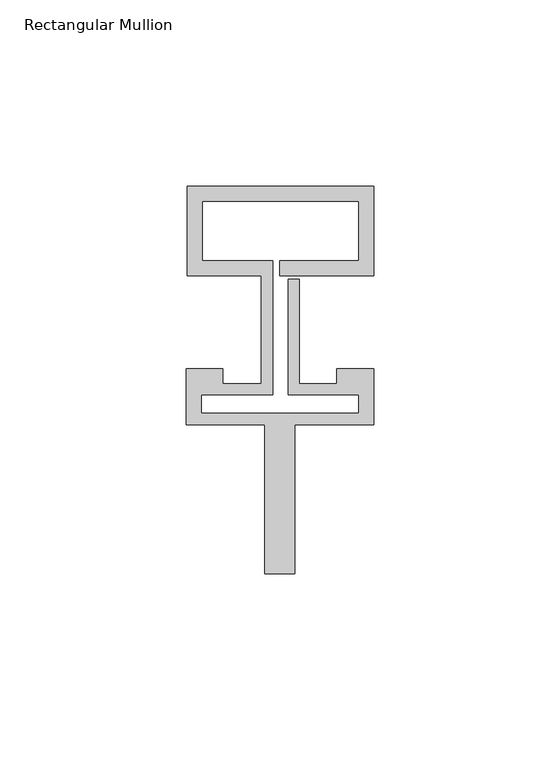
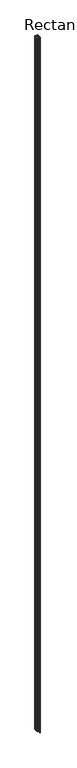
"""IFC4 building model written with IfcOpenShell, lengths in millimetres: member geometry, Rectangular Mullion : Reynaers_CW-50_Mullion-Transom_Horizontal_23.9mm_Facecap-06B."""

import ifcopenshell
import ifcopenshell.guid

model = None  # the IFC model being written
_history = None  # IfcOwnerHistory: only IFC2X3 demands one
_inside = {}  # id of a spatial element -> (the spatial element, [elements in it])
_under = {}  # id of a project, library or spatial element -> (it, [spatial elements below it])
_declared = {}  # id of a project -> (the project, [libraries it declares])
_typed = {}  # id of a type object -> (the type object, [elements of that type])
_made_of = {}  # id of a material, layer set ... -> (it, [elements and type objects made of it])


def new_model(schema):
    """Start an empty IFC model of exactly this schema.

    Asked for "IFC4X3", IfcOpenShell would pick the latest addendum, in which some entities
    have other attributes; the version numbers below select the first issue.
    IFC2X3 requires an IfcOwnerHistory on every rooted entity: one is made here for all.
    """
    global model, _history
    if schema == "IFC4X3":
        model = ifcopenshell.file(schema_version=(4, 3, 0, 0))
    else:
        model = ifcopenshell.file(schema=schema)
    _inside.clear()
    _under.clear()
    _declared.clear()
    _typed.clear()
    _made_of.clear()
    _history = None
    if model.schema == "IFC2X3":
        org = make("IfcOrganization", Name="unknown")
        user = make(
            "IfcPersonAndOrganization",
            ThePerson=make("IfcPerson", FamilyName="unknown"),
            TheOrganization=org,
        )
        app = make(
            "IfcApplication",
            ApplicationDeveloper=org,
            Version="unknown",
            ApplicationFullName="unknown",
            ApplicationIdentifier="unknown",
        )
        _history = make(
            "IfcOwnerHistory",
            OwningUser=user,
            OwningApplication=app,
            ChangeAction="ADDED",
            CreationDate=0,
        )
    return model


def make(cls, **values):
    """One entity of the class cls with the attributes given. An attribute that is None is left unset."""
    return model.create_entity(
        cls, **{name: value for name, value in values.items() if value is not None}
    )


def rooted(cls, **values):
    """An entity with a GlobalId (a new one), such as an element, a storey or a relation."""
    return make(cls, GlobalId=ifcopenshell.guid.new(), OwnerHistory=_history, **values)


def si_unit(unit_type, name, prefix=None):
    """IfcSIUnit, for example si_unit("LENGTHUNIT", "METRE", prefix="MILLI")."""
    return make("IfcSIUnit", UnitType=unit_type, Prefix=prefix, Name=name)


def assignment(units):
    """IfcUnitAssignment: the units of a project."""
    return None if units is None else make("IfcUnitAssignment", Units=units)


def point(xyz):
    """IfcCartesianPoint."""
    return None if xyz is None else make("IfcCartesianPoint", Coordinates=xyz)


def direction(xyz):
    """IfcDirection."""
    return None if xyz is None else make("IfcDirection", DirectionRatios=xyz)


def frame(location, z_axis=None, x_axis=None):
    """IfcAxis2Placement3D, a coordinate frame: its origin and axes. An axis left out is left unset."""
    return make(
        "IfcAxis2Placement3D",
        Location=point(location),
        Axis=direction(z_axis),
        RefDirection=direction(x_axis),
    )


def origin():
    """The frame at (0, 0, 0) with its axes left unset."""
    return frame((0.0, 0.0, 0.0))


def place(relative_to, where):
    """IfcLocalPlacement: puts the frame where relative to a parent placement (None: the world)."""
    return make(
        "IfcLocalPlacement", PlacementRelTo=relative_to, RelativePlacement=where
    )


def context(
    kind, dimensions, precision=None, world=None, true_north=None, identifier=None
):
    """IfcGeometricRepresentationContext, for example the 3D "Model" context."""
    return make(
        "IfcGeometricRepresentationContext",
        ContextIdentifier=identifier,
        ContextType=kind,
        CoordinateSpaceDimension=dimensions,
        Precision=precision,
        WorldCoordinateSystem=world,
        TrueNorth=true_north,
    )


def project(units=None, contexts=None):
    """IfcProject with its units and contexts."""
    return rooted(
        "IfcProject",
        Name="project",
        RepresentationContexts=contexts,
        UnitsInContext=assignment(units),
    )


def spatial(cls, under=None, at=None, **own):
    """A site, building, storey or space (cls), placed at a placement, below another one or the project."""
    s = rooted(cls, ObjectPlacement=at, **own)
    if under is not None:
        _under.setdefault(under.id(), (under, []))[1].append(s)
    return s


def polyline(points):
    """IfcPolyline through the points."""
    return make("IfcPolyline", Points=[point(p) for p in points])


def outline(outer, holes=None, kind="AREA"):
    """IfcArbitraryClosedProfileDef: a profile drawn as a closed curve; with holes, ...WithVoids."""
    if holes is None:
        return make("IfcArbitraryClosedProfileDef", ProfileType=kind, OuterCurve=outer)
    return make(
        "IfcArbitraryProfileDefWithVoids",
        ProfileType=kind,
        OuterCurve=outer,
        InnerCurves=holes,
    )


def extrude(swept, where, along, depth):
    """IfcExtrudedAreaSolid: the profile swept, set in the frame where, extruded along a direction by depth."""
    return make(
        "IfcExtrudedAreaSolid",
        SweptArea=swept,
        Position=where,
        ExtrudedDirection=direction(along),
        Depth=depth,
    )


def shape(context_of_items, identifier, shape_type, items):
    """IfcShapeRepresentation: the items that make up one representation, for example the "Body"."""
    return make(
        "IfcShapeRepresentation",
        ContextOfItems=context_of_items,
        RepresentationIdentifier=identifier,
        RepresentationType=shape_type,
        Items=items,
    )


def source(mapping_origin, context_of_items, identifier, shape_type, items):
    """IfcRepresentationMap: a shape defined once, which mapped items show again and again."""
    return make(
        "IfcRepresentationMap",
        MappingOrigin=mapping_origin,
        MappedRepresentation=shape(context_of_items, identifier, shape_type, items),
    )


def transform(
    local_origin,
    x_axis=None,
    y_axis=None,
    z_axis=None,
    scale=None,
    scale2=None,
    scale3=None,
    uniform=True,
):
    """IfcCartesianTransformationOperator3D, or its non-uniform kind. x_axis, y_axis, z_axis: its Axis1, 2, 3."""
    if uniform:
        return make(
            "IfcCartesianTransformationOperator3D",
            Axis1=direction(x_axis),
            Axis2=direction(y_axis),
            LocalOrigin=point(local_origin),
            Scale=scale,
            Axis3=direction(z_axis),
        )
    return make(
        "IfcCartesianTransformationOperator3DnonUniform",
        Axis1=direction(x_axis),
        Axis2=direction(y_axis),
        LocalOrigin=point(local_origin),
        Scale=scale,
        Axis3=direction(z_axis),
        Scale2=scale2,
        Scale3=scale3,
    )


def mapped(mapping_source, mapping_target):
    """IfcMappedItem: shows the shape of a source again, moved by a transform."""
    return make(
        "IfcMappedItem", MappingSource=mapping_source, MappingTarget=mapping_target
    )


def made_of(thing, what):
    """Note that an element or type object is made of a material, layer set ...; save() writes the relation."""
    if what is not None:
        _made_of.setdefault(what.id(), (what, []))[1].append(thing)
    return thing


def element(
    cls,
    number,
    at=None,
    inside=None,
    cuts=None,
    type_object=None,
    material=None,
    context=None,
    identifier="Body",
    shape_type=None,
    held_by="IfcProductDefinitionShape",
    body=None,
    shapes=None,
    **own,
):
    """One element of the class cls, such as IfcWall. Its Tag is "e" and its number.

    at: its placement. inside: the storey or other place that contains it. cuts: it is an
    opening in that element (IfcRelVoidsElement). A single representation is given by context,
    identifier, shape_type and body (its items); several are given by shapes. held_by: the class
    of the entity that holds the representations. save() writes the other relations.
    """
    e = rooted(cls, Tag="e%d" % number, ObjectPlacement=at, **own)
    if body is not None:
        shapes = [shape(context, identifier, shape_type, body)]
    if shapes is not None:
        e.Representation = make(held_by, Representations=shapes)
    if inside is not None:
        _inside.setdefault(inside.id(), (inside, []))[1].append(e)
    if cuts is not None:
        rooted(
            "IfcRelVoidsElement", RelatingBuildingElement=cuts, RelatedOpeningElement=e
        )
    if type_object is not None:
        _typed.setdefault(type_object.id(), (type_object, []))[1].append(e)
    return made_of(e, material)


def aggregate(whole, parts):
    """IfcRelAggregates: a whole, such as a stair, and the parts it consists of."""
    return rooted("IfcRelAggregates", RelatingObject=whole, RelatedObjects=parts)


def save(model, path):
    """Write the relations noted so far, then the file.

    IfcRelAggregates (storeys below a building ...), IfcRelContainedInSpatialStructure (elements
    in a storey), IfcRelDefinesByType, IfcRelAssociatesMaterial and IfcRelDeclares: one each for
    every whole, place, type object, material and project.
    """
    for whole, parts in _under.values():
        aggregate(whole, parts)
    for where, things in _inside.values():
        rooted(
            "IfcRelContainedInSpatialStructure",
            RelatedElements=things,
            RelatingStructure=where,
        )
    for kind, things in _typed.values():
        rooted("IfcRelDefinesByType", RelatedObjects=things, RelatingType=kind)
    for what, things in _made_of.values():
        rooted("IfcRelAssociatesMaterial", RelatedObjects=things, RelatingMaterial=what)
    for by, libraries in _declared.values():
        rooted("IfcRelDeclares", RelatingContext=by, RelatedDefinitions=libraries)
    model.write(path)


def rectangular_mullion_764dd3d6(model_context):
    return source(origin(), model_context, "Body", "SweptSolid", [
        extrude(outline(polyline([(-24.8004059, 36.4), (25.1995941, 36.4), (25.1995941, 12.5), (0.0, 12.5), (0.0, 16.5), (21.1995941, 16.5), (21.1995941, 32.4), (-20.8004059, 32.4), (-20.8004059, 16.5), (-1.9004059, 16.5), (-1.9004059, -19.5), (-20.994845, -19.5), (-20.994845, -24.4191338), (21.1995941, -24.4191338), (21.1995941, -19.5), (2.2995941, -19.5), (2.2995941, 11.5), (5.2995941, 11.5), (5.2995941, -16.5), (15.2996495, -16.5), (15.2996495, -12.5), (25.1995941, -12.5), (25.1995941, -27.5), (4.004855, -27.5), (4.004855, -67.5), (-3.995145, -67.5), (-3.995145, -27.5), (-24.994845, -27.5), (-24.994845, -12.5), (-15.2996495, -12.5), (-15.2996495, -16.5), (-4.9004059, -16.5), (-4.9004059, 12.5), (-24.8004059, 12.5), (-24.8004059, 36.4)])), frame((0.0, 0.0, -12000.0), z_axis=(0.0, 0.0, 1.0), x_axis=(1.0, 0.0, 0.0)), (0.0, 0.0, 1.0), 12000.0),
    ])


if __name__ == "__main__":
    model = new_model("IFC4")
    model_context = context("Model", 3, world=origin())
    ifc_project = project(units=[si_unit("LENGTHUNIT", "METRE", prefix="MILLI")], contexts=[model_context])
    site = spatial("IfcSite", under=ifc_project)
    building = spatial("IfcBuilding", under=site)
    placement = place(None, origin())
    rectangular_mullion_shape = rectangular_mullion_764dd3d6(model_context)
    element("IfcMember", 1, ObjectType="Rectangular Mullion : Reynaers_CW-50_Mullion-Transom_Horizontal_23.9mm_Facecap-06B", at=placement, inside=building, context=model_context, shape_type="MappedRepresentation", body=[
        mapped(rectangular_mullion_shape, transform((0.0, 0.0, 0.0), x_axis=(1.0, 0.0, 0.0), y_axis=(0.0, 1.0, 0.0), z_axis=(0.0, 0.0, 1.0))),
    ])
    save(model, "model.ifc")
